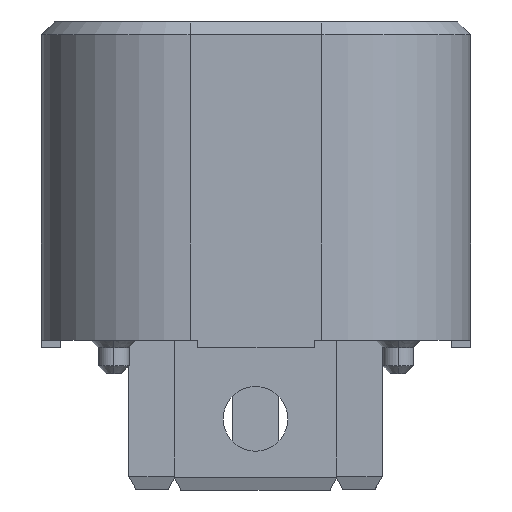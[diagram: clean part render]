
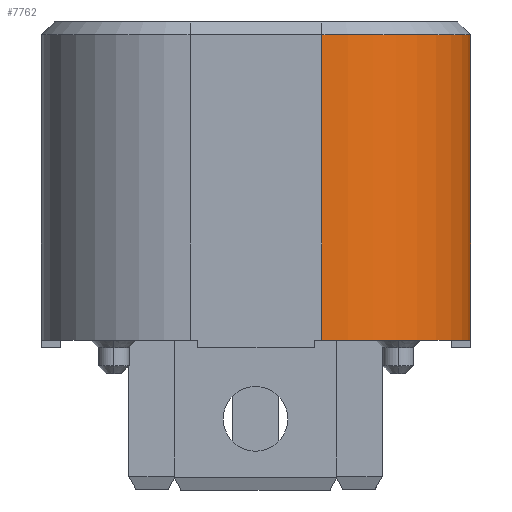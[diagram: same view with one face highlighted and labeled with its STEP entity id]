
A CAD part, left-side view. The second image highlights one B-rep face of the part: STEP entity #7762.
In plain terms, the highlighted cylindrical face has radius 5.75 mm (diameter 11.5 mm), a partial arc.
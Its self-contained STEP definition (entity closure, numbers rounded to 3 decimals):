
#841=CARTESIAN_POINT('',(-15.95,47.45,9.6));
#842=DIRECTION('',(0.,0.,1.));
#843=DIRECTION('',(-1.,0.,0.));
#844=AXIS2_PLACEMENT_3D('',#841,#842,#843);
#891=DIRECTION('',(0.,0.,1.));
#892=VECTOR('',#891,11.8);
#893=CARTESIAN_POINT('',(-15.95,41.7,-2.2));
#894=LINE('',#893,#892);
#898=DIRECTION('',(0.,0.,-1.));
#899=VECTOR('',#898,11.8);
#900=CARTESIAN_POINT('',(-21.7,47.45,9.6));
#901=LINE('',#900,#899);
#1120=CARTESIAN_POINT('',(-15.95,47.45,-2.2));
#1121=DIRECTION('',(0.,0.,-1.));
#1122=DIRECTION('',(0.,-1.,0.));
#1123=AXIS2_PLACEMENT_3D('',#1120,#1121,#1122);
#6153=CARTESIAN_POINT('',(-15.95,41.7,9.6));
#6155=VERTEX_POINT('',#6153);
#6166=CARTESIAN_POINT('',(-21.7,47.45,-2.2));
#6168=VERTEX_POINT('',#6166);
#6246=CARTESIAN_POINT('',(-21.7,47.45,9.6));
#6248=VERTEX_POINT('',#6246);
#6369=CARTESIAN_POINT('',(-15.95,41.7,-2.2));
#6370=VERTEX_POINT('',#6369);
#7749=CARTESIAN_POINT('',(-15.95,47.45,10.1));
#7750=DIRECTION('',(0.,0.,-1.));
#7751=DIRECTION('',(-1.,0.,0.));
#7752=AXIS2_PLACEMENT_3D('',#7749,#7750,#7751);
#7753=CYLINDRICAL_SURFACE('',#7752,5.75);
#7755=ORIENTED_EDGE('',*,*,#7754,.F.);
#7757=ORIENTED_EDGE('',*,*,#7756,.T.);
#7758=ORIENTED_EDGE('',*,*,#7731,.F.);
#7759=ORIENTED_EDGE('',*,*,#7707,.T.);
#7760=EDGE_LOOP('',(#7755,#7757,#7758,#7759));
#7761=FACE_OUTER_BOUND('',#7760,.F.);
#845=CIRCLE('',#844,5.75);
#1124=CIRCLE('',#1123,5.75);
#7707=EDGE_CURVE('',#6248,#6155,#845,.T.);
#7731=EDGE_CURVE('',#6248,#6168,#901,.T.);
#7754=EDGE_CURVE('',#6370,#6155,#894,.T.);
#7756=EDGE_CURVE('',#6370,#6168,#1124,.T.);
#7762=ADVANCED_FACE('',(#7761),#7753,.T.);
